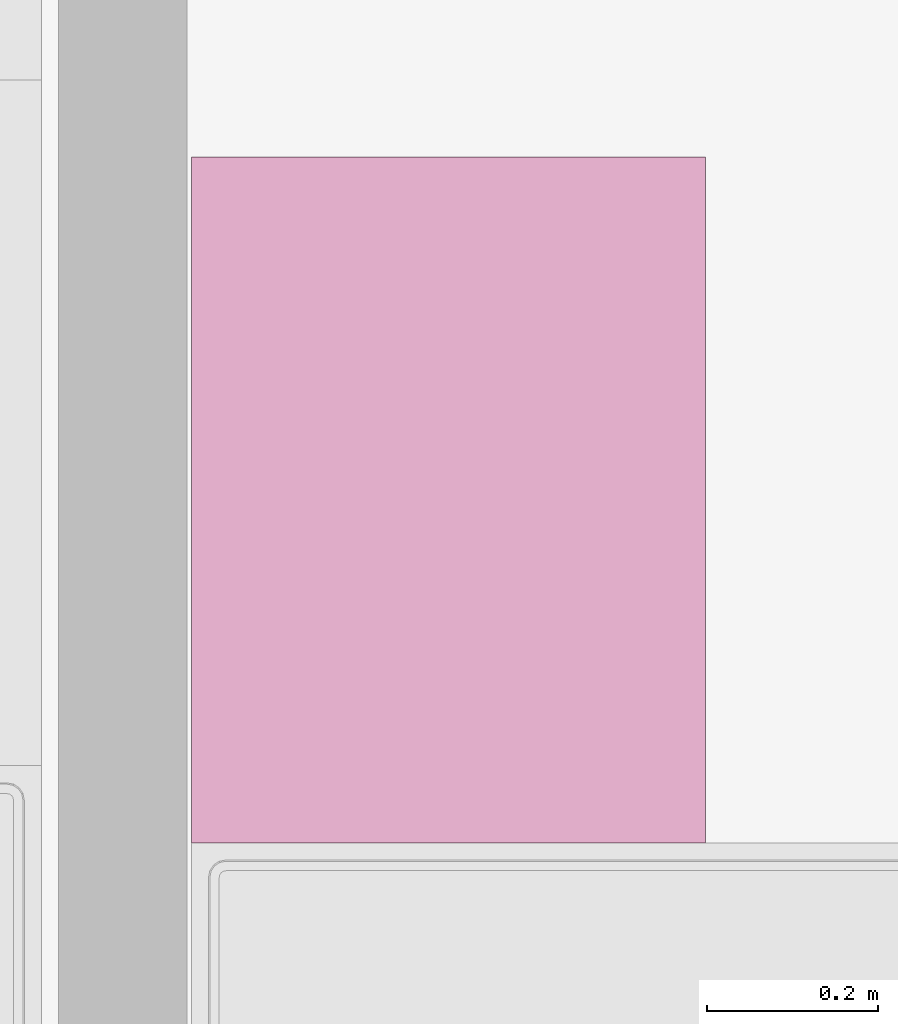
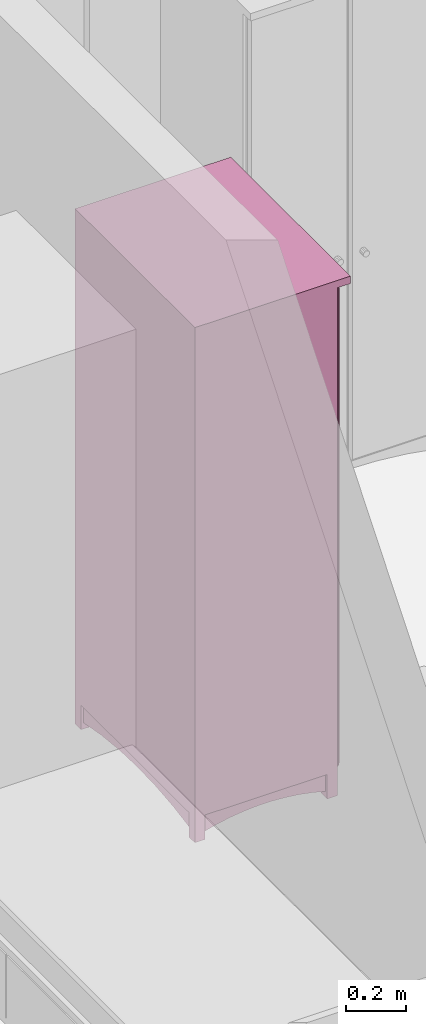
# One storey, part 59 of 165: 1 furnishing.
"""IFC2X3 building model written with IfcOpenShell, lengths in millimetres."""

from ifc_helpers import new_model, entity, si_unit, converted_unit, money_unit, direction, frame, origin_with_axes, place, context, subcontext, project, spatial, faceted_brep, source, transform, mapped, material, material_list, type_object, element, save


model = new_model("IFC2X3")

# Units and contexts
model_context = context("Model", 3, precision=1e-05, world=origin_with_axes(), true_north=direction((0.0, 1.0)))
body_context = subcontext(model_context, "Body", "Model", "MODEL_VIEW")
ifc_project = project(units=[si_unit("LENGTHUNIT", "METRE", prefix="MILLI"), si_unit("AREAUNIT", "SQUARE_METRE"), si_unit("VOLUMEUNIT", "CUBIC_METRE"), converted_unit("PLANEANGLEUNIT", "DEGREE", entity("IfcPlaneAngleMeasure", 0.0174532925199), si_unit("PLANEANGLEUNIT", "RADIAN"), dimensions=[0, 0, 0, 0, 0, 0, 0]), si_unit("SOLIDANGLEUNIT", "STERADIAN"), money_unit("USD"), converted_unit("TIMEUNIT", "Year", entity("IfcTimeMeasure", 31556926.0), si_unit("TIMEUNIT", "SECOND"), dimensions=[0, 0, 0, 0, 0, 0, 0]), si_unit("MASSUNIT", "GRAM"), si_unit("THERMODYNAMICTEMPERATUREUNIT", "DEGREE_CELSIUS"), si_unit("LUMINOUSINTENSITYUNIT", "LUMEN")], contexts=[model_context])

# Site, building, storey
site_placement = place(None, origin_with_axes())
site = spatial("IfcSite", under=ifc_project, at=site_placement, Name="Site", CompositionType="ELEMENT")
building_placement = place(site_placement, origin_with_axes())
building = spatial("IfcBuilding", under=site, at=building_placement, Name="Building", CompositionType="ELEMENT")
storey_placement = place(building_placement, frame((0.0, 0.0, 6300.0), z_axis=(0.0, 0.0, 1.0), x_axis=(1.0, 0.0, 0.0)))
storey = spatial("IfcBuildingStorey", under=building, at=storey_placement, Name="4KORRUS", CompositionType="ELEMENT", Elevation=6300.0)

# Furnishing
ifc_material = material(Name="Background")
ifc_material_list = material_list([ifc_material])
furnishing_element_type = type_object("IfcFurnishingElementType", Name="Cupboard 19")
shared_shape = source(origin_with_axes(), body_context, "Body", "Brep", [
    faceted_brep([(780.0, 600.0, 120.0), (780.0, 600.0, 2050.0), (780.0, 580.0, 2050.0), (780.0, 580.0, 120.0), (20.0, 600.0, 120.0), (20.0, 600.0, 2050.0), (20.0, 580.0, 2050.0), (20.0, 580.0, 120.0)], [[[0, 1, 2, 3]], [[4, 5, 1, 0]], [[1, 5, 6, 2]], [[3, 2, 6, 7]], [[0, 3, 7, 4]], [[7, 6, 5, 4]]]),
    faceted_brep([(0.0, 50.0, 100.0), (0.0, 600.0, 100.0), (20.0, 600.0, 100.0), (20.0, 50.0, 100.0), (0.0, 50.0, 2070.0), (0.0, 600.0, 2070.0), (20.0, 600.0, 2070.0), (20.0, 50.0, 2070.0)], [[[0, 1, 2, 3]], [[0, 4, 5, 1]], [[1, 5, 6, 2]], [[2, 6, 7, 3]], [[3, 7, 4, 0]], [[7, 6, 5, 4]]]),
    faceted_brep([(780.0, 50.0, 100.0), (780.0, 600.0, 100.0), (800.0, 600.0, 100.0), (800.0, 50.0, 100.0), (780.0, 50.0, 2070.0), (780.0, 600.0, 2070.0), (800.0, 600.0, 2070.0), (800.0, 50.0, 2070.0)], [[[0, 1, 2, 3]], [[0, 4, 5, 1]], [[1, 5, 6, 2]], [[2, 6, 7, 3]], [[3, 7, 4, 0]], [[7, 6, 5, 4]]]),
    faceted_brep([(20.0, 50.0, 100.0), (20.0, 600.0, 100.0), (780.0, 600.0, 100.0), (780.0, 50.0, 100.0), (20.0, 50.0, 120.0), (20.0, 600.0, 120.0), (780.0, 600.0, 120.0), (780.0, 50.0, 120.0)], [[[0, 1, 2, 3]], [[0, 4, 5, 1]], [[1, 5, 6, 2]], [[2, 6, 7, 3]], [[3, 7, 4, 0]], [[7, 6, 5, 4]]]),
    faceted_brep([(20.0, 50.0, 2050.0), (20.0, 600.0, 2050.0), (780.0, 600.0, 2050.0), (780.0, 50.0, 2050.0), (20.0, 50.0, 2070.0), (20.0, 600.0, 2070.0), (780.0, 600.0, 2070.0), (780.0, 50.0, 2070.0)], [[[0, 1, 2, 3]], [[0, 4, 5, 1]], [[1, 5, 6, 2]], [[2, 6, 7, 3]], [[3, 7, 4, 0]], [[7, 6, 5, 4]]]),
    faceted_brep([(0.0, 600.0, 2070.0), (0.0, 0.0, 2070.0), (0.0, 0.0, 2100.0), (0.0, 600.0, 2100.0), (800.0, 600.0, 2070.0), (800.0, 0.0, 2070.0), (800.0, 0.0, 2100.0), (800.0, 600.0, 2100.0)], [[[0, 1, 2, 3]], [[0, 4, 5, 1]], [[1, 5, 6, 2]], [[3, 2, 6, 7]], [[4, 0, 3, 7]], [[5, 4, 7, 6]]]),
    faceted_brep([(760.0, 590.0, 25.0), (760.0, 570.0, 25.0), (640.962, 570.0, 45.8), (640.962, 590.0, 45.8), (760.0, 590.0, 100.0), (760.0, 570.0, 100.0), (40.0, 570.0, 100.0), (40.0, 570.0, 25.0), (159.038, 570.0, 45.8), (279.23, 570.0, 58.32), (400.0, 570.0, 62.5), (520.77, 570.0, 58.32), (520.77, 590.0, 58.32), (400.0, 590.0, 62.5), (279.23, 590.0, 58.32), (159.038, 590.0, 45.8), (40.0, 590.0, 25.0), (40.0, 590.0, 100.0)], [[[0, 1, 2, 3]], [[4, 5, 1, 0]], [[1, 5, 6, 7, 8, 9, 10, 11, 2]], [[3, 2, 11, 12]], [[0, 3, 12, 13, 14, 15, 16, 17, 4]], [[17, 6, 5, 4]], [[16, 7, 6, 17]], [[15, 8, 7, 16]], [[14, 9, 8, 15]], [[13, 10, 9, 14]], [[12, 11, 10, 13]]]),
    faceted_brep([(760.0, 80.0, 25.0), (760.0, 60.0, 25.0), (640.962, 60.0, 45.8), (640.962, 80.0, 45.8), (760.0, 80.0, 100.0), (760.0, 60.0, 100.0), (40.0, 60.0, 100.0), (40.0, 60.0, 25.0), (159.038, 60.0, 45.8), (279.23, 60.0, 58.32), (400.0, 60.0, 62.5), (520.77, 60.0, 58.32), (520.77, 80.0, 58.32), (400.0, 80.0, 62.5), (279.23, 80.0, 58.32), (159.038, 80.0, 45.8), (40.0, 80.0, 25.0), (40.0, 80.0, 100.0)], [[[0, 1, 2, 3]], [[4, 5, 1, 0]], [[1, 5, 6, 7, 8, 9, 10, 11, 2]], [[3, 2, 11, 12]], [[0, 3, 12, 13, 14, 15, 16, 17, 4]], [[17, 6, 5, 4]], [[16, 7, 6, 17]], [[15, 8, 7, 16]], [[14, 9, 8, 15]], [[13, 10, 9, 14]], [[12, 11, 10, 13]]]),
    faceted_brep([(790.0, 90.0, 25.0), (770.0, 90.0, 25.0), (770.0, 141.266, 38.072), (790.0, 141.266, 38.072), (790.0, 90.0, 100.0), (770.0, 90.0, 100.0), (770.0, 560.0, 100.0), (770.0, 560.0, 25.0), (770.0, 508.734, 38.072), (770.0, 456.752, 47.92), (770.0, 404.257, 54.508), (770.0, 351.453, 57.808), (770.0, 298.547, 57.808), (770.0, 245.743, 54.508), (770.0, 193.248, 47.92), (790.0, 193.248, 47.92), (790.0, 245.743, 54.508), (790.0, 298.547, 57.808), (790.0, 351.453, 57.808), (790.0, 404.257, 54.508), (790.0, 456.752, 47.92), (790.0, 508.734, 38.072), (790.0, 560.0, 25.0), (790.0, 560.0, 100.0)], [[[0, 1, 2, 3]], [[4, 5, 1, 0]], [[1, 5, 6, 7, 8, 9, 10, 11, 12, 13, 14, 2]], [[3, 2, 14, 15]], [[0, 3, 15, 16, 17, 18, 19, 20, 21, 22, 23, 4]], [[23, 6, 5, 4]], [[22, 7, 6, 23]], [[21, 8, 7, 22]], [[20, 9, 8, 21]], [[19, 10, 9, 20]], [[18, 11, 10, 19]], [[17, 12, 11, 18]], [[16, 13, 12, 17]], [[15, 14, 13, 16]]]),
    faceted_brep([(30.0, 90.0, 25.0), (10.0, 90.0, 25.0), (10.0, 141.266, 38.072), (30.0, 141.266, 38.072), (30.0, 90.0, 100.0), (10.0, 90.0, 100.0), (10.0, 560.0, 100.0), (10.0, 560.0, 25.0), (10.0, 508.734, 38.072), (10.0, 456.752, 47.92), (10.0, 404.257, 54.508), (10.0, 351.453, 57.808), (10.0, 298.547, 57.808), (10.0, 245.743, 54.508), (10.0, 193.248, 47.92), (30.0, 193.248, 47.92), (30.0, 245.743, 54.508), (30.0, 298.547, 57.808), (30.0, 351.453, 57.808), (30.0, 404.257, 54.508), (30.0, 456.752, 47.92), (30.0, 508.734, 38.072), (30.0, 560.0, 25.0), (30.0, 560.0, 100.0)], [[[0, 1, 2, 3]], [[4, 5, 1, 0]], [[1, 5, 6, 7, 8, 9, 10, 11, 12, 13, 14, 2]], [[3, 2, 14, 15]], [[0, 3, 15, 16, 17, 18, 19, 20, 21, 22, 23, 4]], [[23, 6, 5, 4]], [[22, 7, 6, 23]], [[21, 8, 7, 22]], [[20, 9, 8, 21]], [[19, 10, 9, 20]], [[18, 11, 10, 19]], [[17, 12, 11, 18]], [[16, 13, 12, 17]], [[15, 14, 13, 16]]]),
    faceted_brep([(760.0, 560.0, 0.0), (760.0, 560.0, 100.0), (760.0, 600.0, 100.0), (760.0, 600.0, 0.0), (800.0, 560.0, 0.0), (800.0, 560.0, 100.0), (800.0, 600.0, 100.0), (800.0, 600.0, 0.0)], [[[0, 1, 2, 3]], [[4, 5, 1, 0]], [[1, 5, 6, 2]], [[3, 2, 6, 7]], [[0, 3, 7, 4]], [[7, 6, 5, 4]]]),
    faceted_brep([(0.0, 560.0, 0.0), (0.0, 560.0, 100.0), (0.0, 600.0, 100.0), (0.0, 600.0, 0.0), (40.0, 560.0, 0.0), (40.0, 560.0, 100.0), (40.0, 600.0, 100.0), (40.0, 600.0, 0.0)], [[[0, 1, 2, 3]], [[4, 5, 1, 0]], [[1, 5, 6, 2]], [[3, 2, 6, 7]], [[0, 3, 7, 4]], [[7, 6, 5, 4]]]),
    faceted_brep([(760.0, 50.0, 0.0), (760.0, 50.0, 100.0), (760.0, 90.0, 100.0), (760.0, 90.0, 0.0), (800.0, 50.0, 0.0), (800.0, 50.0, 100.0), (800.0, 90.0, 100.0), (800.0, 90.0, 0.0)], [[[0, 1, 2, 3]], [[4, 5, 1, 0]], [[1, 5, 6, 2]], [[3, 2, 6, 7]], [[0, 3, 7, 4]], [[7, 6, 5, 4]]]),
    faceted_brep([(0.0, 50.0, 0.0), (0.0, 50.0, 100.0), (0.0, 90.0, 100.0), (0.0, 90.0, 0.0), (40.0, 50.0, 0.0), (40.0, 50.0, 100.0), (40.0, 90.0, 100.0), (40.0, 90.0, 0.0)], [[[0, 1, 2, 3]], [[4, 5, 1, 0]], [[1, 5, 6, 2]], [[3, 2, 6, 7]], [[0, 3, 7, 4]], [[7, 6, 5, 4]]]),
    faceted_brep([(780.0, 580.0, 587.5), (780.0, 580.0, 607.5), (780.0, 50.0, 607.5), (780.0, 50.0, 587.5), (20.0, 580.0, 587.5), (20.0, 580.0, 607.5), (20.0, 50.0, 607.5), (20.0, 50.0, 587.5)], [[[0, 1, 2, 3]], [[4, 5, 1, 0]], [[1, 5, 6, 2]], [[3, 2, 6, 7]], [[0, 3, 7, 4]], [[7, 6, 5, 4]]]),
    faceted_brep([(780.0, 580.0, 1075.0), (780.0, 580.0, 1095.0), (780.0, 50.0, 1095.0), (780.0, 50.0, 1075.0), (20.0, 580.0, 1075.0), (20.0, 580.0, 1095.0), (20.0, 50.0, 1095.0), (20.0, 50.0, 1075.0)], [[[0, 1, 2, 3]], [[4, 5, 1, 0]], [[1, 5, 6, 2]], [[3, 2, 6, 7]], [[0, 3, 7, 4]], [[7, 6, 5, 4]]]),
    faceted_brep([(780.0, 580.0, 1562.5), (780.0, 580.0, 1582.5), (780.0, 50.0, 1582.5), (780.0, 50.0, 1562.5), (20.0, 580.0, 1562.5), (20.0, 580.0, 1582.5), (20.0, 50.0, 1582.5), (20.0, 50.0, 1562.5)], [[[0, 1, 2, 3]], [[4, 5, 1, 0]], [[1, 5, 6, 2]], [[3, 2, 6, 7]], [[0, 3, 7, 4]], [[7, 6, 5, 4]]]),
    faceted_brep([(789.5, 50.0, 110.5), (400.5, 50.0, 110.5), (400.5, 50.0, 2059.5), (789.5, 50.0, 2059.5), (789.5, 40.0, 110.5), (400.5, 40.0, 110.5), (400.5, 40.0, 2059.5), (789.5, 40.0, 2059.5), (779.5, 30.0, 120.5), (410.5, 30.0, 120.5), (410.5, 30.0, 2049.5), (779.5, 30.0, 2049.5)], [[[0, 1, 2, 3]], [[0, 4, 5, 1]], [[1, 5, 6, 2]], [[2, 6, 7, 3]], [[3, 7, 4, 0]], [[4, 8, 9, 5]], [[5, 9, 10, 6]], [[6, 10, 11, 7]], [[7, 11, 8, 4]], [[10, 9, 8, 11]]]),
    faceted_brep([(399.5, 50.0, 110.5), (10.5, 50.0, 110.5), (10.5, 50.0, 2059.5), (399.5, 50.0, 2059.5), (399.5, 40.0, 110.5), (10.5, 40.0, 110.5), (10.5, 40.0, 2059.5), (399.5, 40.0, 2059.5), (389.5, 30.0, 120.5), (20.5, 30.0, 120.5), (20.5, 30.0, 2049.5), (389.5, 30.0, 2049.5)], [[[0, 1, 2, 3]], [[0, 4, 5, 1]], [[1, 5, 6, 2]], [[2, 6, 7, 3]], [[3, 7, 4, 0]], [[4, 8, 9, 5]], [[5, 9, 10, 6]], [[6, 10, 11, 7]], [[7, 11, 8, 4]], [[10, 9, 8, 11]]]),
    faceted_brep([(339.608, 30.0, 954.0), (338.0, 30.0, 960.0), (339.608, 30.0, 966.0), (344.0, 30.0, 970.392), (350.0, 30.0, 972.0), (356.0, 30.0, 970.392), (360.392, 30.0, 966.0), (362.0, 30.0, 960.0), (360.392, 30.0, 954.0), (356.0, 30.0, 949.608), (350.0, 30.0, 948.0), (344.0, 30.0, 949.608), (339.608, 5.0, 954.0), (338.0, 5.0, 960.0), (339.608, 5.0, 966.0), (344.0, 5.0, 970.392), (350.0, 5.0, 972.0), (356.0, 5.0, 970.392), (360.392, 5.0, 966.0), (362.0, 5.0, 960.0), (360.392, 5.0, 954.0), (356.0, 5.0, 949.608), (350.0, 5.0, 948.0), (344.0, 5.0, 949.608)], [[[0, 1, 2, 3, 4, 5, 6, 7, 8, 9, 10, 11]], [[0, 12, 13, 1]], [[1, 13, 14, 2]], [[2, 14, 15, 3]], [[3, 15, 16, 4]], [[4, 16, 17, 5]], [[5, 17, 18, 6]], [[6, 18, 19, 7]], [[7, 19, 20, 8]], [[8, 20, 21, 9]], [[9, 21, 22, 10]], [[10, 22, 23, 11]], [[11, 23, 12, 0]], [[12, 23, 22, 21, 20, 19, 18, 17, 16, 15, 14, 13]]]),
    faceted_brep([(460.392, 30.0, 954.0), (456.0, 30.0, 949.608), (450.0, 30.0, 948.0), (444.0, 30.0, 949.608), (439.608, 30.0, 954.0), (438.0, 30.0, 960.0), (439.608, 30.0, 966.0), (444.0, 30.0, 970.392), (450.0, 30.0, 972.0), (456.0, 30.0, 970.392), (460.392, 30.0, 966.0), (462.0, 30.0, 960.0), (460.392, 5.0, 954.0), (456.0, 5.0, 949.608), (450.0, 5.0, 948.0), (444.0, 5.0, 949.608), (439.608, 5.0, 954.0), (438.0, 5.0, 960.0), (439.608, 5.0, 966.0), (444.0, 5.0, 970.392), (450.0, 5.0, 972.0), (456.0, 5.0, 970.392), (460.392, 5.0, 966.0), (462.0, 5.0, 960.0)], [[[0, 1, 2, 3, 4, 5, 6, 7, 8, 9, 10, 11]], [[1, 0, 12, 13]], [[2, 1, 13, 14]], [[3, 2, 14, 15]], [[4, 3, 15, 16]], [[5, 4, 16, 17]], [[6, 5, 17, 18]], [[7, 6, 18, 19]], [[8, 7, 19, 20]], [[9, 8, 20, 21]], [[10, 9, 21, 22]], [[11, 10, 22, 23]], [[0, 11, 23, 12]], [[12, 23, 22, 21, 20, 19, 18, 17, 16, 15, 14, 13]]]),
])
furnishing_placement = place(storey_placement, frame((-44465.2967033, -17529.2398994, 0.0), z_axis=(0.0, 0.0, 1.0), x_axis=(0.0, 1.0, 0.0)))
element("IfcFurnishingElement", 1, at=furnishing_placement, inside=storey, type_object=furnishing_element_type, material=ifc_material_list, Name="FU - 014", context=body_context, shape_type="MappedRepresentation", body=[
    mapped(shared_shape, transform((0.0, 0.0, 0.0))),
])

save(model, "model.ifc")
